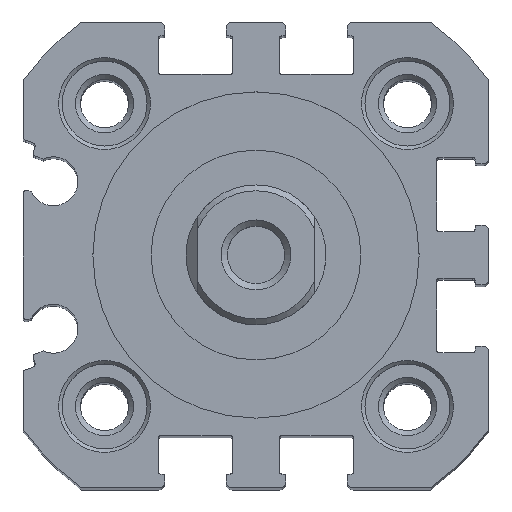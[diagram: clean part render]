
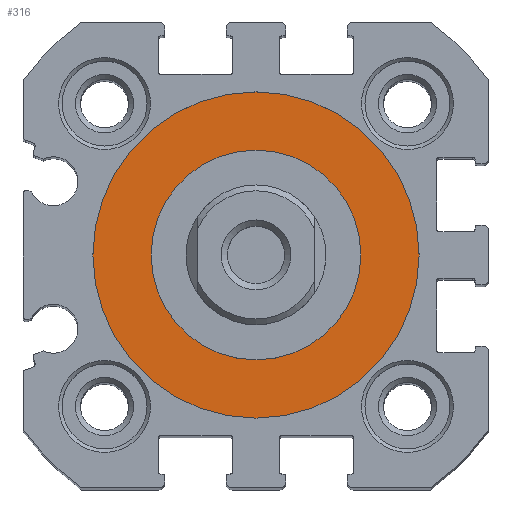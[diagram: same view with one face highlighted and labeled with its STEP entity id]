
A CAD part, top view. The second image highlights one B-rep face of the part: STEP entity #316.
In plain terms, the highlighted planar face has unit normal (0, 0, 1).
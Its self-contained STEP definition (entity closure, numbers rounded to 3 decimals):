
#316 = ADVANCED_FACE( '', ( #774, #775 ), #776, .T. );
#774 = FACE_BOUND( '', #1438, .T. );
#775 = FACE_OUTER_BOUND( '', #1439, .T. );
#776 = PLANE( '', #1440 );
#1438 = EDGE_LOOP( '', ( #2209 ) );
#1439 = EDGE_LOOP( '', ( #2210 ) );
#1440 = AXIS2_PLACEMENT_3D( '', #2211, #2212, #2213 );
#2209 = ORIENTED_EDGE( '', *, *, #3807, .F. );
#2210 = ORIENTED_EDGE( '', *, *, #3808, .T. );
#2211 = CARTESIAN_POINT( '', ( 0., 0., -1.5 ) );
#2212 = DIRECTION( '', ( 0., 0., 1. ) );
#2213 = DIRECTION( '', ( 1., 0., 0. ) );
#3807 = EDGE_CURVE( '', #4546, #4546, #4547, .T. );
#3808 = EDGE_CURVE( '', #4548, #4548, #4549, .T. );
#4546 = VERTEX_POINT( '', #5579 );
#4547 = CIRCLE( '', #5580, 9. );
#4548 = VERTEX_POINT( '', #5581 );
#4549 = CIRCLE( '', #5582, 14. );
#5579 = CARTESIAN_POINT( '', ( 9., 0., -1.5 ) );
#5580 = AXIS2_PLACEMENT_3D( '', #6704, #6705, #6706 );
#5581 = CARTESIAN_POINT( '', ( 14., 0., -1.5 ) );
#5582 = AXIS2_PLACEMENT_3D( '', #6707, #6708, #6709 );
#6704 = CARTESIAN_POINT( '', ( 0., 0., -1.5 ) );
#6705 = DIRECTION( '', ( 0., 0., 1. ) );
#6706 = DIRECTION( '', ( 1., 0., 0. ) );
#6707 = CARTESIAN_POINT( '', ( 0., 0., -1.5 ) );
#6708 = DIRECTION( '', ( 0., 0., 1. ) );
#6709 = DIRECTION( '', ( 1., 0., 0. ) );
